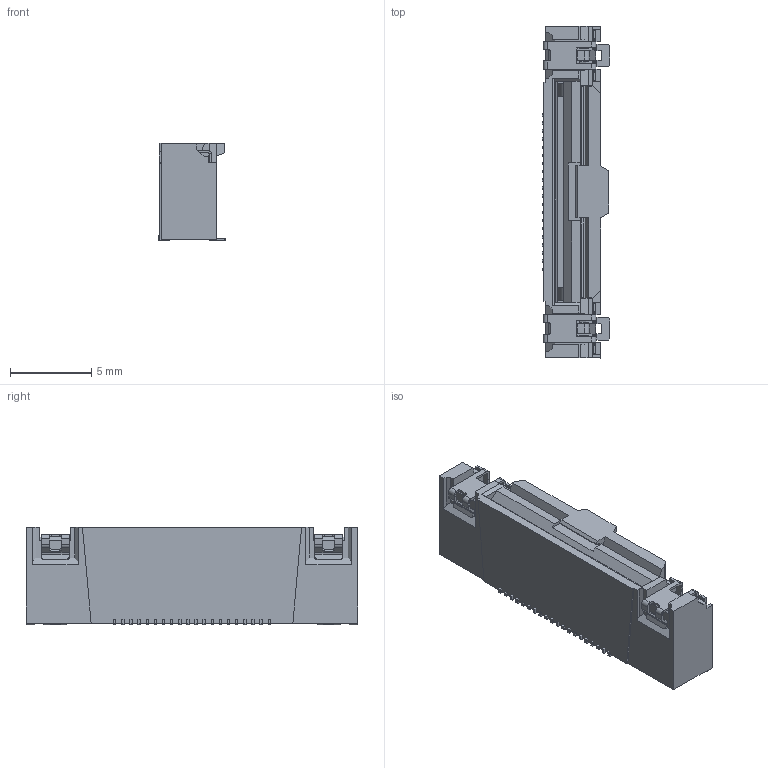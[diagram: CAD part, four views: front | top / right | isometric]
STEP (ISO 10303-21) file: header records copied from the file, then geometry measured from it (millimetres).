
FILE_DESCRIPTION (( 'STEP AP214' ), '1' );
FILE_NAME ('006810620002.STEP', '2022-06-20T04:27:22', ( '' ), ( '' ), 'SwSTEP 2.0', 'SolidWorks 2021', '' );
FILE_SCHEMA (( 'AUTOMOTIVE_DESIGN' ));
Length unit declared in the file: millimetre
Products named in the file (1): 006810620002
Bounding box: 4.16 x 20.4 x 6 mm (x, y, z)
Volume: 307.6 mm3; surface area: 914.8 mm2
Topology: 1 solids, 1 shells, 903 faces, 2629 edges, 1692 vertices
Faces by surface type: plane 649, cylinder 210, torus 40, bspline 4
Entity records: 30144 total; most frequent: CARTESIAN_POINT 6302, ORIENTED_EDGE 5258, DIRECTION 4599, EDGE_CURVE 2629, LINE 2095, VECTOR 2095, VERTEX_POINT 1692, AXIS2_PLACEMENT_3D 1252
